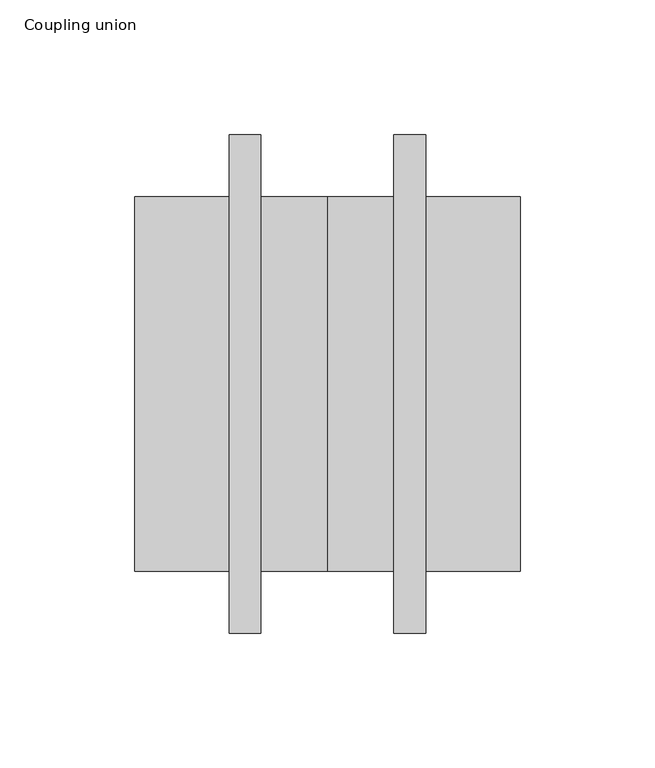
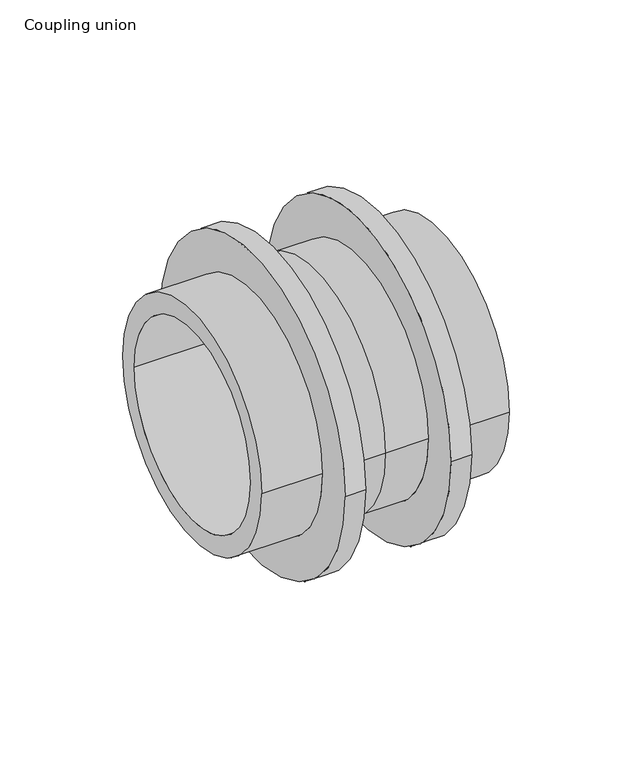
"""IFC4 building model written with IfcOpenShell, lengths in millimetres: pipe fitting geometry, Coupling union : C EQ SDR11 RX."""

from ifc_helpers import new_model, si_unit, frame, origin, place, context, project, spatial, polyline, circle_curve, source, transform, mapped, element, save
from ifc_brep_helpers import plane_surface, cylinder_surface, revolved_surface, advanced_brep


def coupling_union_655df743(model_context):
    return source(origin(), model_context, "Body", "AdvancedBrep", [
        advanced_brep(
        [(36.5, 92.5, 0.0), (36.5, -92.5, 0.0), (24.7, -92.5, 0.0), (24.7, 92.5, 0.0), (71.5, 69.55, 0.0), (71.5, -69.55, 0.0), (36.5, -69.55, 0.0), (36.5, 69.55, 0.0), (-71.5, 58.0, 0.0), (-71.5, -58.0, 0.0), (71.5, -58.0, 0.0), (71.5, 58.0, 0.0), (-36.5, 69.55, 0.0), (-36.5, -69.55, 0.0), (-71.5, -69.55, 0.0), (-71.5, 69.55, 0.0), (-24.7, 92.5, 0.0), (-24.7, -92.5, 0.0), (-36.5, -92.5, 0.0), (-36.5, 92.5, 0.0), (0.0, 69.55, 0.0), (0.0, -69.55, 0.0), (-24.7, -69.55, 0.0), (-24.7, 69.55, 0.0), (24.7, 69.55, 0.0), (24.7, -69.55, 0.0)],
        [
            (0, 1, circle_curve(frame((36.5, 0.0, 0.0), z_axis=(-1.0, 0.0, 0.0), x_axis=(0.0, -1.0, 0.0)), 92.5)),
            (1, 2),
            (2, 3, circle_curve(frame((24.7, 0.0, 0.0), z_axis=(1.0, 0.0, 0.0), x_axis=(0.0, -1.0, 0.0)), 92.5)),
            (3, 0),
            (4, 5, circle_curve(frame((71.5, 0.0, 0.0), z_axis=(-1.0, 0.0, 0.0), x_axis=(0.0, -1.0, 0.0)), 69.55)),
            (5, 6),
            (6, 7, circle_curve(frame((36.5, 0.0, 0.0), z_axis=(1.0, 0.0, 0.0), x_axis=(0.0, -1.0, 0.0)), 69.55)),
            (7, 4),
            (8, 9, circle_curve(frame((-71.5, 0.0, 0.0), z_axis=(-1.0, 0.0, 0.0), x_axis=(0.0, -1.0, 0.0)), 58.0)),
            (9, 10),
            (10, 11, circle_curve(frame((71.5, 0.0, 0.0), z_axis=(1.0, 0.0, 0.0), x_axis=(0.0, -1.0, 0.0)), 58.0)),
            (11, 8),
            (12, 13, circle_curve(frame((-36.5, 0.0, 0.0), z_axis=(-1.0, 0.0, 0.0), x_axis=(0.0, -1.0, 0.0)), 69.55)),
            (13, 14),
            (14, 15, circle_curve(frame((-71.5, 0.0, 0.0), z_axis=(1.0, 0.0, 0.0), x_axis=(0.0, -1.0, 0.0)), 69.55)),
            (15, 12),
            (16, 17, circle_curve(frame((-24.7, 0.0, 0.0), z_axis=(-1.0, 0.0, 0.0), x_axis=(0.0, -1.0, 0.0)), 92.5)),
            (17, 18),
            (18, 19, circle_curve(frame((-36.5, 0.0, 0.0), z_axis=(1.0, 0.0, 0.0), x_axis=(0.0, -1.0, 0.0)), 92.5)),
            (19, 16),
            (20, 21, circle_curve(frame((0.0, 0.0, 0.0), z_axis=(-1.0, 0.0, 0.0), x_axis=(0.0, -1.0, 0.0)), 69.55)),
            (21, 22),
            (22, 23, circle_curve(frame((-24.7, 0.0, 0.0), z_axis=(1.0, 0.0, 0.0), x_axis=(0.0, -1.0, 0.0)), 69.55)),
            (23, 20),
            (24, 25, circle_curve(frame((24.7, 0.0, 0.0), z_axis=(-1.0, 0.0, 0.0), x_axis=(0.0, -1.0, 0.0)), 69.55)),
            (25, 21),
            (20, 24),
            (1, 0, circle_curve(frame((36.5, 0.0, 0.0), z_axis=(-1.0, 0.0, 0.0), x_axis=(0.0, 1.0, 0.0)), 92.5)),
            (3, 2, circle_curve(frame((24.7, 0.0, 0.0), z_axis=(1.0, 0.0, 0.0), x_axis=(0.0, 1.0, 0.0)), 92.5)),
            (6, 7, circle_curve(frame((36.5, 0.0, 0.0), z_axis=(-1.0, 0.0, 0.0), x_axis=(0.0, 1.0, 0.0)), 69.55)),
            (5, 4, circle_curve(frame((71.5, 0.0, 0.0), z_axis=(-1.0, 0.0, 0.0), x_axis=(0.0, 1.0, 0.0)), 69.55)),
            (10, 11, circle_curve(frame((71.5, 0.0, 0.0), z_axis=(-1.0, 0.0, 0.0), x_axis=(0.0, 1.0, 0.0)), 58.0)),
            (9, 8, circle_curve(frame((-71.5, 0.0, 0.0), z_axis=(-1.0, 0.0, 0.0), x_axis=(0.0, 1.0, 0.0)), 58.0)),
            (14, 15, circle_curve(frame((-71.5, 0.0, 0.0), z_axis=(-1.0, 0.0, 0.0), x_axis=(0.0, 1.0, 0.0)), 69.55)),
            (13, 12, circle_curve(frame((-36.5, 0.0, 0.0), z_axis=(-1.0, 0.0, 0.0), x_axis=(0.0, 1.0, 0.0)), 69.55)),
            (18, 19, circle_curve(frame((-36.5, 0.0, 0.0), z_axis=(-1.0, 0.0, 0.0), x_axis=(0.0, 1.0, 0.0)), 92.5)),
            (17, 16, circle_curve(frame((-24.7, 0.0, 0.0), z_axis=(-1.0, 0.0, 0.0), x_axis=(0.0, 1.0, 0.0)), 92.5)),
            (22, 23, circle_curve(frame((-24.7, 0.0, 0.0), z_axis=(-1.0, 0.0, 0.0), x_axis=(0.0, 1.0, 0.0)), 69.55)),
            (21, 20, circle_curve(frame((0.0, 0.0, 0.0), z_axis=(-1.0, 0.0, 0.0), x_axis=(0.0, 1.0, 0.0)), 69.55)),
            (25, 24, circle_curve(frame((24.7, 0.0, 0.0), z_axis=(-1.0, 0.0, 0.0), x_axis=(0.0, 1.0, 0.0)), 69.55)),
        ],
        [
            cylinder_surface(frame((0.0, 0.0, 0.0), z_axis=(1.0, 0.0, 0.0), x_axis=(0.0, -1.0, 0.0)), 92.5),
            cylinder_surface(frame((0.0, 0.0, 0.0), z_axis=(1.0, 0.0, 0.0), x_axis=(0.0, -1.0, 0.0)), 69.55),
            revolved_surface(polyline([(71.5, -58.0, 0.0), (-71.5, -58.0, 0.0)]), (0.0, 0.0, 0.0), (1.0, 0.0, 0.0)),
            cylinder_surface(frame((0.0, 0.0, 0.0), z_axis=(1.0, 0.0, 0.0), x_axis=(0.0, 1.0, 0.0)), 92.5),
            plane_surface(frame((36.5, 0.0, 0.0), z_axis=(1.0, 0.0, 0.0), x_axis=(0.0, 1.0, 0.0))),
            cylinder_surface(frame((0.0, 0.0, 0.0), z_axis=(1.0, 0.0, 0.0), x_axis=(0.0, 1.0, 0.0)), 69.55),
            plane_surface(frame((71.5, 0.0, 0.0), z_axis=(1.0, 0.0, 0.0), x_axis=(0.0, 1.0, 0.0))),
            revolved_surface(polyline([(71.5, 58.0, 0.0), (-71.5, 58.0, 0.0)]), (0.0, 0.0, 0.0), (1.0, 0.0, 0.0)),
            plane_surface(frame((-71.5, 0.0, 0.0), z_axis=(-1.0, 0.0, 0.0), x_axis=(0.0, 1.0, 0.0))),
            plane_surface(frame((-36.5, 0.0, 0.0), z_axis=(-1.0, 0.0, 0.0), x_axis=(0.0, 1.0, 0.0))),
            plane_surface(frame((-24.7, 0.0, 0.0), z_axis=(1.0, 0.0, 0.0), x_axis=(0.0, 1.0, 0.0))),
            plane_surface(frame((24.7, 0.0, 0.0), z_axis=(-1.0, 0.0, 0.0), x_axis=(0.0, 1.0, 0.0))),
        ],
        [
            (0, [[1, 2, 3, 4]]),
            (1, [[5, 6, 7, 8]]),
            (2, [[9, 10, 11, 12]]),
            (1, [[13, 14, 15, 16]]),
            (0, [[17, 18, 19, 20]]),
            (1, [[21, 22, 23, 24]]),
            (1, [[25, 26, -21, 27]]),
            (3, [[28, -4, 29, -2]]),
            (4, [[-28, -1], [30, -7]]),
            (5, [[31, -8, -30, -6]]),
            (6, [[-31, -5], [32, -11]]),
            (7, [[33, -12, -32, -10]]),
            (8, [[34, -15], [-33, -9]]),
            (5, [[35, -16, -34, -14]]),
            (9, [[36, -19], [-35, -13]]),
            (3, [[37, -20, -36, -18]]),
            (10, [[-37, -17], [38, -23]]),
            (5, [[39, -24, -38, -22]]),
            (5, [[40, -27, -39, -26]]),
            (11, [[-29, -3], [-40, -25]]),
        ],
    ),
    ])


if __name__ == "__main__":
    model = new_model("IFC4")
    model_context = context("Model", 3, world=origin())
    ifc_project = project(units=[si_unit("LENGTHUNIT", "METRE", prefix="MILLI")], contexts=[model_context])
    site = spatial("IfcSite", under=ifc_project)
    building = spatial("IfcBuilding", under=site)
    placement = place(None, origin())
    coupling_union_shape = coupling_union_655df743(model_context)
    element("IfcPipeFitting", 1, ObjectType="Coupling union : C EQ SDR11 RX", at=placement, inside=building, context=model_context, shape_type="MappedRepresentation", body=[
        mapped(coupling_union_shape, transform((0.0, 0.0, 0.0), x_axis=(1.0, 0.0, 0.0), y_axis=(0.0, 1.0, 0.0), z_axis=(0.0, 0.0, 1.0))),
    ])
    save(model, "model.ifc")
